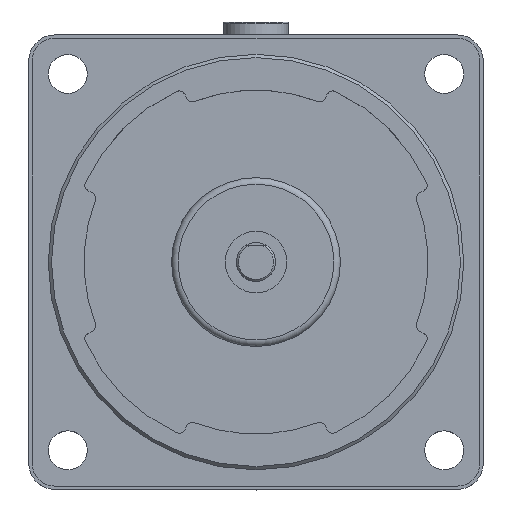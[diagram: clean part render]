
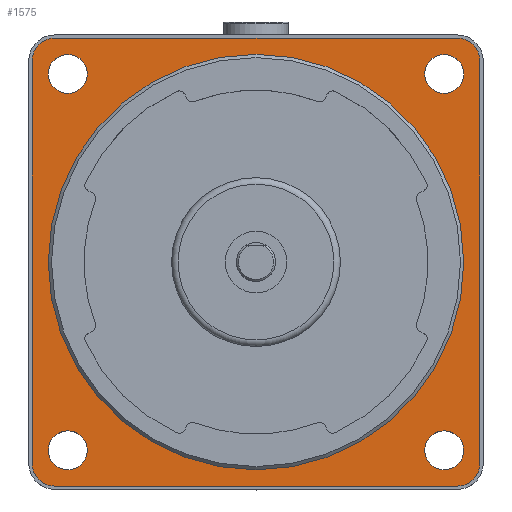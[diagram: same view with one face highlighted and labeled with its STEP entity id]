
A CAD part, top view. The second image highlights one B-rep face of the part: STEP entity #1575.
In plain terms, the highlighted planar face has unit normal (0, 0, 1).
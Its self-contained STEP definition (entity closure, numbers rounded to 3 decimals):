
#31 = ORIENTED_EDGE ( 'NONE', *, *, #2018, .F. ) ;
#60 = EDGE_LOOP ( 'NONE', ( #31 ) ) ;
#169 = EDGE_CURVE ( 'NONE', #4139, #4139, #5909, .T. ) ;
#214 = EDGE_LOOP ( 'NONE', ( #2646, #3798, #5828, #916, #7117, #4204, #6573, #3335 ) ) ;
#230 = EDGE_CURVE ( 'NONE', #7011, #946, #7148, .T. ) ;
#382 = DIRECTION ( 'NONE',  ( 0., 0., 1. ) ) ;
#455 = CIRCLE ( 'NONE', #5337, 3. ) ;
#513 = CARTESIAN_POINT ( 'NONE',  ( 34.5, -31., 0. ) ) ;
#528 = CARTESIAN_POINT ( 'NONE',  ( 0., 0., 0. ) ) ;
#575 = DIRECTION ( 'NONE',  ( 0., 0., 1. ) ) ;
#665 = VERTEX_POINT ( 'NONE', #6915 ) ;
#712 = CARTESIAN_POINT ( 'NONE',  ( 0., 0., 0. ) ) ;
#757 = CARTESIAN_POINT ( 'NONE',  ( 34.5, -31., 0. ) ) ;
#778 = VERTEX_POINT ( 'NONE', #3419 ) ;
#801 = ORIENTED_EDGE ( 'NONE', *, *, #169, .F. ) ;
#916 = ORIENTED_EDGE ( 'NONE', *, *, #6988, .T. ) ;
#939 = EDGE_CURVE ( 'NONE', #946, #1010, #3117, .T. ) ;
#946 = VERTEX_POINT ( 'NONE', #5370 ) ;
#958 = CIRCLE ( 'NONE', #6182, 3.5 ) ;
#1010 = VERTEX_POINT ( 'NONE', #6005 ) ;
#1021 = CIRCLE ( 'NONE', #5286, 3.5 ) ;
#1091 = CARTESIAN_POINT ( 'NONE',  ( 28.991, 28.991, 0. ) ) ;
#1164 = CARTESIAN_POINT ( 'NONE',  ( -28.991, -25.991, 0. ) ) ;
#1190 = CARTESIAN_POINT ( 'NONE',  ( -31., 34.5, 0. ) ) ;
#1207 = VERTEX_POINT ( 'NONE', #6377 ) ;
#1242 = CARTESIAN_POINT ( 'NONE',  ( 32., 0., 0. ) ) ;
#1364 = CARTESIAN_POINT ( 'NONE',  ( -31., -31., 0. ) ) ;
#1523 = DIRECTION ( 'NONE',  ( 1., 0., 0. ) ) ;
#1575 = ADVANCED_FACE ( 'NONE', ( #6280, #4505, #4466, #2854, #2741, #5141 ), #2705, .T. ) ;
#1827 = CARTESIAN_POINT ( 'NONE',  ( 31., -34.5, 0. ) ) ;
#2018 = EDGE_CURVE ( 'NONE', #5812, #5812, #2036, .T. ) ;
#2023 = CARTESIAN_POINT ( 'NONE',  ( -31., 31., 0. ) ) ;
#2036 = CIRCLE ( 'NONE', #6540, 32. ) ;
#2104 = EDGE_CURVE ( 'NONE', #665, #665, #2642, .T. ) ;
#2405 = VECTOR ( 'NONE', #7165, 1000. ) ;
#2429 = CARTESIAN_POINT ( 'NONE',  ( 31., -31., 0. ) ) ;
#2439 = CARTESIAN_POINT ( 'NONE',  ( 31., 34.5, 0. ) ) ;
#2474 = CARTESIAN_POINT ( 'NONE',  ( 34.5, 31., 0. ) ) ;
#2529 = CIRCLE ( 'NONE', #7270, 3.5 ) ;
#2533 = CIRCLE ( 'NONE', #5213, 3. ) ;
#2539 = CARTESIAN_POINT ( 'NONE',  ( -28.991, 28.991, 0. ) ) ;
#2642 = CIRCLE ( 'NONE', #5451, 3. ) ;
#2646 = ORIENTED_EDGE ( 'NONE', *, *, #3096, .T. ) ;
#2668 = LINE ( 'NONE', #6167, #2405 ) ;
#2705 = PLANE ( 'NONE',  #6411 ) ;
#2712 = EDGE_CURVE ( 'NONE', #1207, #1207, #2533, .T. ) ;
#2741 = FACE_BOUND ( 'NONE', #6207, .T. ) ;
#2797 = EDGE_CURVE ( 'NONE', #778, #6329, #7012, .T. ) ;
#2854 = FACE_BOUND ( 'NONE', #3464, .T. ) ;
#2877 = DIRECTION ( 'NONE',  ( 0., 0., 1. ) ) ;
#2899 = EDGE_CURVE ( 'NONE', #1010, #5889, #2668, .T. ) ;
#3040 = DIRECTION ( 'NONE',  ( 0., 0., 1. ) ) ;
#3096 = EDGE_CURVE ( 'NONE', #6109, #5476, #5974, .T. ) ;
#3105 = CARTESIAN_POINT ( 'NONE',  ( -34.5, 31., 0. ) ) ;
#3117 = CIRCLE ( 'NONE', #3726, 3.5 ) ;
#3316 = ORIENTED_EDGE ( 'NONE', *, *, #2712, .F. ) ;
#3335 = ORIENTED_EDGE ( 'NONE', *, *, #5788, .T. ) ;
#3419 = CARTESIAN_POINT ( 'NONE',  ( 31., 34.5, 0. ) ) ;
#3464 = EDGE_LOOP ( 'NONE', ( #4113 ) ) ;
#3718 = DIRECTION ( 'NONE',  ( 1., 0., 0. ) ) ;
#3726 = AXIS2_PLACEMENT_3D ( 'NONE', #1364, #6580, #3718 ) ;
#3798 = ORIENTED_EDGE ( 'NONE', *, *, #5460, .T. ) ;
#3967 = DIRECTION ( 'NONE',  ( -1., 0., 0. ) ) ;
#4042 = DIRECTION ( 'NONE',  ( 0., 0., 1. ) ) ;
#4113 = ORIENTED_EDGE ( 'NONE', *, *, #6148, .F. ) ;
#4139 = VERTEX_POINT ( 'NONE', #1164 ) ;
#4204 = ORIENTED_EDGE ( 'NONE', *, *, #939, .T. ) ;
#4210 = VERTEX_POINT ( 'NONE', #5359 ) ;
#4380 = DIRECTION ( 'NONE',  ( 0., 1., 0. ) ) ;
#4466 = FACE_BOUND ( 'NONE', #5070, .T. ) ;
#4505 = FACE_BOUND ( 'NONE', #7498, .T. ) ;
#4759 = DIRECTION ( 'NONE',  ( 0., 1., 0. ) ) ;
#4868 = DIRECTION ( 'NONE',  ( 0., 0., 1. ) ) ;
#5070 = EDGE_LOOP ( 'NONE', ( #3316 ) ) ;
#5109 = CARTESIAN_POINT ( 'NONE',  ( 31., 31., 0. ) ) ;
#5141 = FACE_OUTER_BOUND ( 'NONE', #214, .T. ) ;
#5213 = AXIS2_PLACEMENT_3D ( 'NONE', #6896, #575, #3967 ) ;
#5256 = DIRECTION ( 'NONE',  ( 0., 0., 1. ) ) ;
#5286 = AXIS2_PLACEMENT_3D ( 'NONE', #2023, #382, #1523 ) ;
#5333 = VECTOR ( 'NONE', #4380, 1000. ) ;
#5337 = AXIS2_PLACEMENT_3D ( 'NONE', #1091, #2877, #6957 ) ;
#5359 = CARTESIAN_POINT ( 'NONE',  ( 28.991, 25.991, 0. ) ) ;
#5370 = CARTESIAN_POINT ( 'NONE',  ( -34.5, -31., 0. ) ) ;
#5451 = AXIS2_PLACEMENT_3D ( 'NONE', #2539, #4868, #7183 ) ;
#5460 = EDGE_CURVE ( 'NONE', #5476, #778, #958, .T. ) ;
#5476 = VERTEX_POINT ( 'NONE', #2474 ) ;
#5723 = DIRECTION ( 'NONE',  ( 0., 0., 1. ) ) ;
#5788 = EDGE_CURVE ( 'NONE', #5889, #6109, #2529, .T. ) ;
#5796 = VECTOR ( 'NONE', #5930, 1000. ) ;
#5812 = VERTEX_POINT ( 'NONE', #1242 ) ;
#5828 = ORIENTED_EDGE ( 'NONE', *, *, #2797, .T. ) ;
#5889 = VERTEX_POINT ( 'NONE', #1827 ) ;
#5909 = CIRCLE ( 'NONE', #7362, 3. ) ;
#5930 = DIRECTION ( 'NONE',  ( 0., -1., 0. ) ) ;
#5974 = LINE ( 'NONE', #757, #5333 ) ;
#6003 = CARTESIAN_POINT ( 'NONE',  ( -28.991, -28.991, 0. ) ) ;
#6005 = CARTESIAN_POINT ( 'NONE',  ( -31., -34.5, 0. ) ) ;
#6109 = VERTEX_POINT ( 'NONE', #513 ) ;
#6148 = EDGE_CURVE ( 'NONE', #4210, #4210, #455, .T. ) ;
#6167 = CARTESIAN_POINT ( 'NONE',  ( -31., -34.5, 0. ) ) ;
#6182 = AXIS2_PLACEMENT_3D ( 'NONE', #5109, #5723, #7423 ) ;
#6207 = EDGE_LOOP ( 'NONE', ( #6737 ) ) ;
#6280 = FACE_BOUND ( 'NONE', #60, .T. ) ;
#6329 = VERTEX_POINT ( 'NONE', #1190 ) ;
#6377 = CARTESIAN_POINT ( 'NONE',  ( 25.991, -28.991, 0. ) ) ;
#6411 = AXIS2_PLACEMENT_3D ( 'NONE', #528, #4042, #6819 ) ;
#6458 = DIRECTION ( 'NONE',  ( 1., 0., 0. ) ) ;
#6540 = AXIS2_PLACEMENT_3D ( 'NONE', #712, #6606, #6458 ) ;
#6547 = VECTOR ( 'NONE', #6557, 1000. ) ;
#6557 = DIRECTION ( 'NONE',  ( -1., 0., 0. ) ) ;
#6573 = ORIENTED_EDGE ( 'NONE', *, *, #2899, .T. ) ;
#6580 = DIRECTION ( 'NONE',  ( 0., 0., 1. ) ) ;
#6606 = DIRECTION ( 'NONE',  ( 0., 0., 1. ) ) ;
#6669 = CARTESIAN_POINT ( 'NONE',  ( -34.5, 31., 0. ) ) ;
#6737 = ORIENTED_EDGE ( 'NONE', *, *, #2104, .F. ) ;
#6819 = DIRECTION ( 'NONE',  ( 1., 0., 0. ) ) ;
#6896 = CARTESIAN_POINT ( 'NONE',  ( 28.991, -28.991, 0. ) ) ;
#6915 = CARTESIAN_POINT ( 'NONE',  ( -25.991, 28.991, 0. ) ) ;
#6957 = DIRECTION ( 'NONE',  ( 0., -1., 0. ) ) ;
#6988 = EDGE_CURVE ( 'NONE', #6329, #7011, #1021, .T. ) ;
#7001 = DIRECTION ( 'NONE',  ( 1., 0., 0. ) ) ;
#7011 = VERTEX_POINT ( 'NONE', #6669 ) ;
#7012 = LINE ( 'NONE', #2439, #6547 ) ;
#7117 = ORIENTED_EDGE ( 'NONE', *, *, #230, .T. ) ;
#7148 = LINE ( 'NONE', #3105, #5796 ) ;
#7165 = DIRECTION ( 'NONE',  ( 1., 0., 0. ) ) ;
#7183 = DIRECTION ( 'NONE',  ( 1., 0., 0. ) ) ;
#7270 = AXIS2_PLACEMENT_3D ( 'NONE', #2429, #5256, #7001 ) ;
#7362 = AXIS2_PLACEMENT_3D ( 'NONE', #6003, #3040, #4759 ) ;
#7423 = DIRECTION ( 'NONE',  ( 1., 0., 0. ) ) ;
#7498 = EDGE_LOOP ( 'NONE', ( #801 ) ) ;
